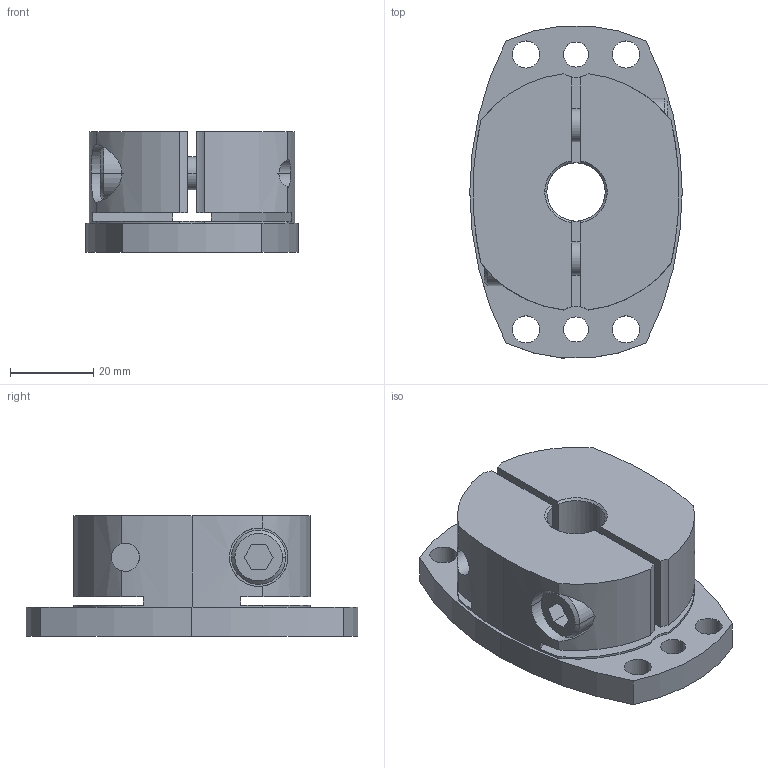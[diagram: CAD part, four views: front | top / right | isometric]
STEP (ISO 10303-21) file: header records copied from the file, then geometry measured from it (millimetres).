
FILE_DESCRIPTION((''),'2;1');
FILE_NAME('SHDB-80B-14.stp','2026-01-28T08:22:15',(''),(''),'AutoCAD STEP 2000i','AutoCAD 2000i',', , ');
FILE_SCHEMA(('CONFIG_CONTROL_DESIGN'));
Length unit declared in the file: millimetre
Products named in the file (2): SHDB-80B-12; 忣兜1
Assembly tree (1 placements, depth 2):
  SHDB-80B-12
    忣兜1
Bounding box: 51 x 79.7 x 29 mm (x, y, z)
Volume: 64487.5 mm3; surface area: 20055.8 mm2
Topology: 1 solids, 1 shells, 102 faces, 280 edges, 184 vertices
Faces by surface type: cylinder 58, plane 34, cone 10
Entity records: 3707 total; most frequent: CARTESIAN_POINT 880, DIRECTION 602, ORIENTED_EDGE 560, EDGE_CURVE 280, AXIS2_PLACEMENT_3D 238, VERTEX_POINT 184, CIRCLE 134, VECTOR 126
